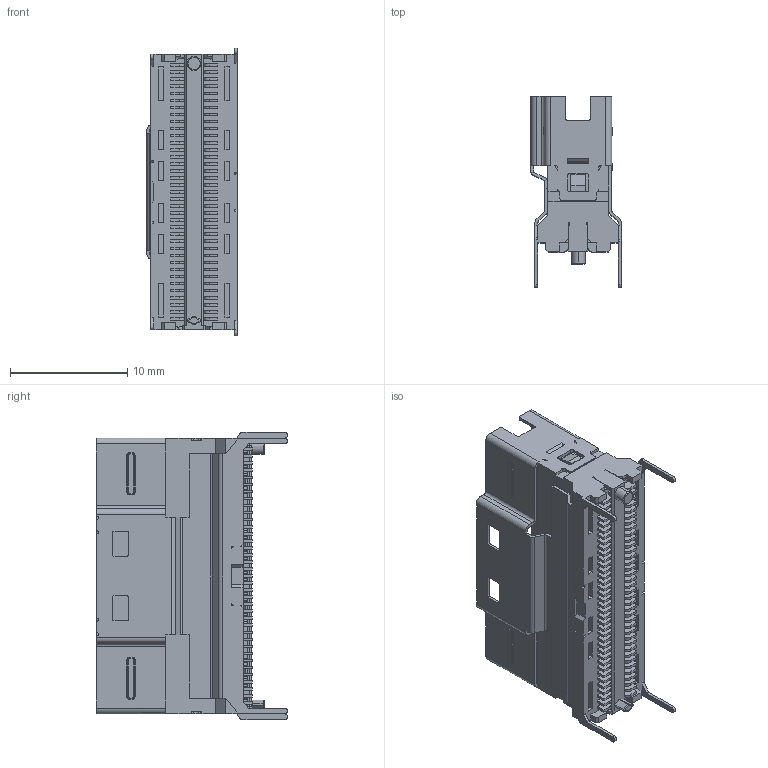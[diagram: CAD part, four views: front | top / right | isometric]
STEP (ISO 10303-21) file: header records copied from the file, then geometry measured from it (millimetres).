
FILE_DESCRIPTION((''),'2;1');
FILE_NAME('PSL060-7433-B01-1H-X2_SW0001__1','2026-07-11T14:23:17',('31000862'),(''),'CREO PARAMETRIC BY PTC INC, 2022244','CREO PARAMETRIC BY PTC INC, 2022244','');
FILE_SCHEMA(('AUTOMOTIVE_DESIGN { 1 0 10303 214 1 1 1 1 }'));
Products named in the file (1): PSL060-7433-B01-1H-X2_SW0001__1
Bounding box: 7.71 x 16.3 x 24.5 mm (x, y, z)
Volume: 927.5 mm3; surface area: 2244.2 mm2
Topology: 1 solids, 1 shells, 1727 faces, 4623 edges, 3052 vertices
Faces by surface type: plane 1301, cylinder 370, torus 34, cone 16, bspline 6
Entity records: 66453 total; most frequent: CARTESIAN_POINT 9642, ORIENTED_EDGE 9244, DIRECTION 8895, EDGE_CURVE 4622, VECTOR 3735, LINE 3735, VERTEX_POINT 3052, AXIS2_PLACEMENT_3D 2580
